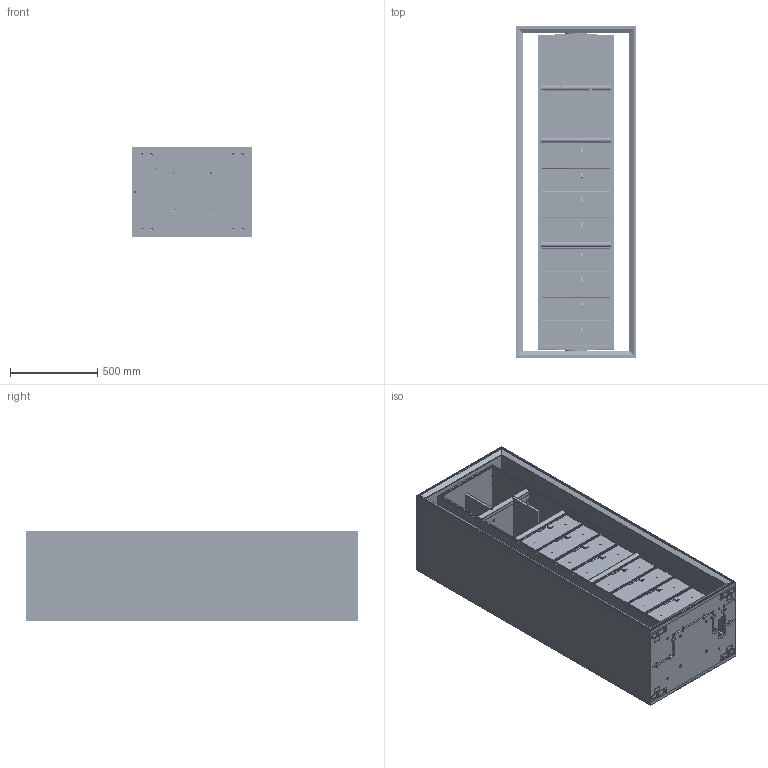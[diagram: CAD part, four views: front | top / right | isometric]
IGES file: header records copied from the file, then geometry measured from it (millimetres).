
Global section: file name: 80052; native system: Autodesk Inventor 2014; preprocessor: unknown; author: Robertom; date: 20140526.111701; units: millimetre
Bounding box: 690 x 1900 x 520 mm (x, y, z)
Volume: 187550128.4 mm3; surface area: 25251477.2 mm2
Topology: 183 solids, 199 shells, 4124 faces, 11712 edges, 8042 vertices
Faces by surface type: bspline 4124
